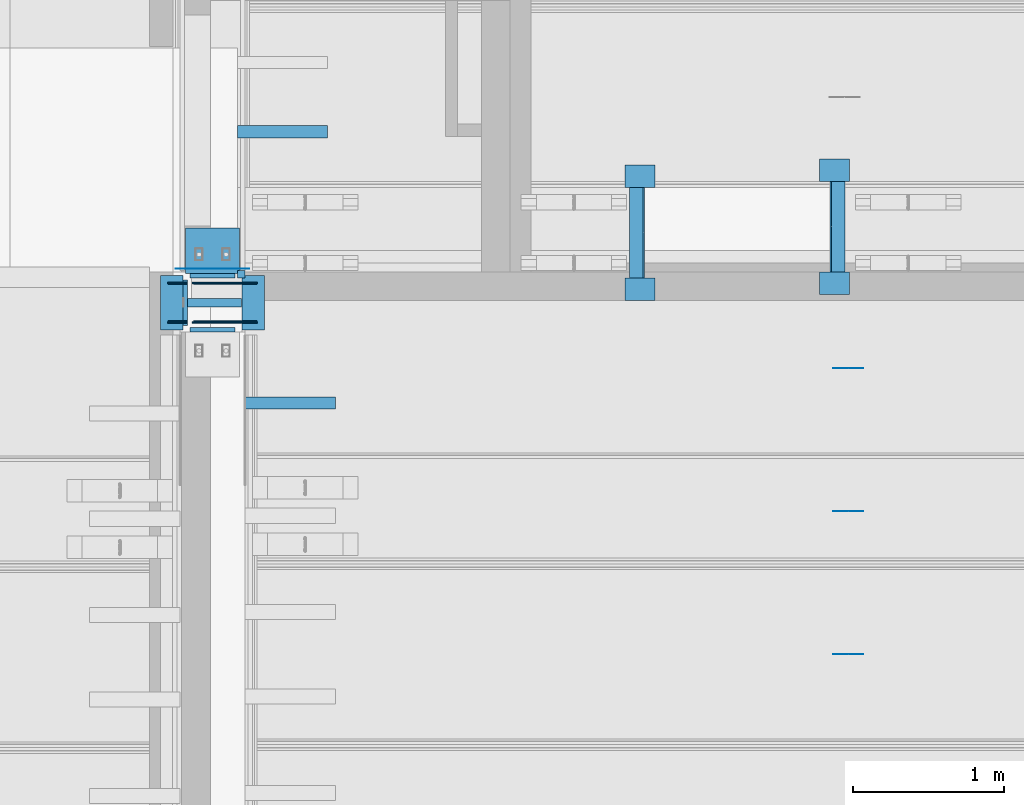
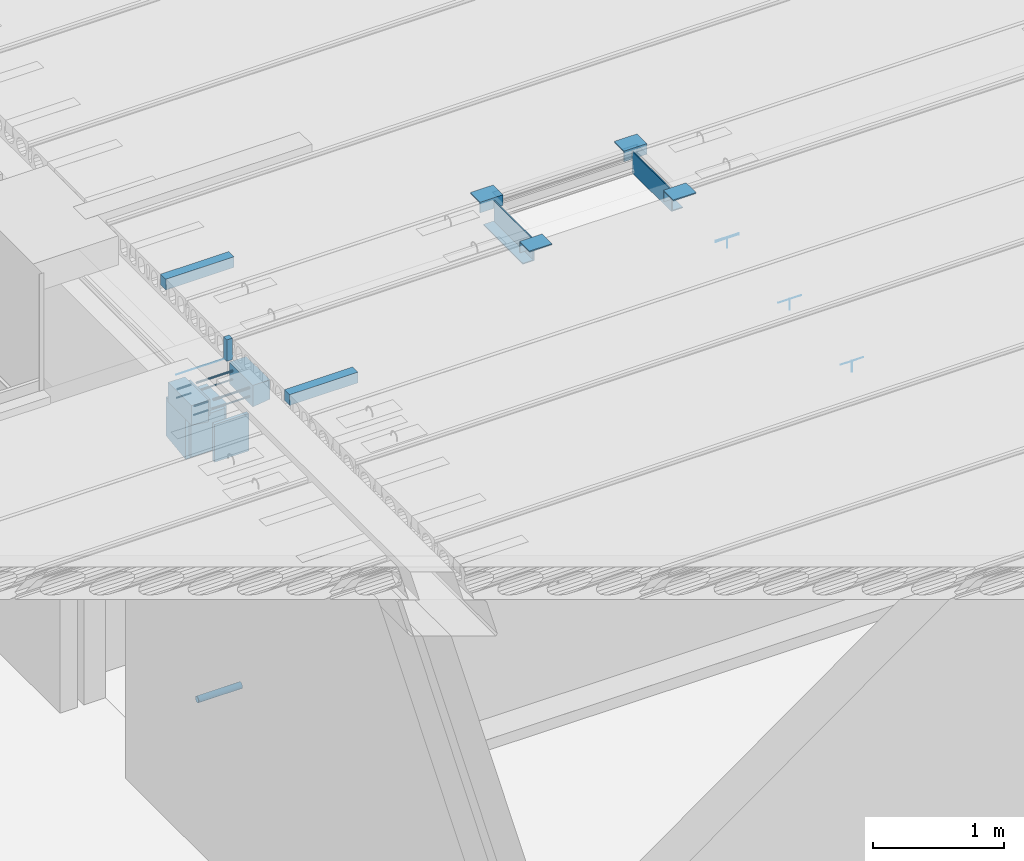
# One storey, part 17 of 230: 34 beams.
"""IFC4X3_ADD2 building model written with IfcOpenShell, lengths in millimetres."""

from ifc_helpers import new_model, entity, si_unit, direction, frame, frame_2d, origin_with_axes, place, context, subcontext, project, spatial, indexed_curve, rectangle, hollow_circle, l_section, outline, extrude, material, element, save


model = new_model("IFC4X3_ADD2")

# Units and contexts
model_context = context("Model", 3, precision=1e-05, world=origin_with_axes(), true_north=direction((0.0, 1.0)))
body_context = subcontext(model_context, "Body", "Model", "MODEL_VIEW")
ifc_project = project(units=[si_unit("LENGTHUNIT", "METRE", prefix="MILLI"), si_unit("AREAUNIT", "SQUARE_METRE"), si_unit("VOLUMEUNIT", "CUBIC_METRE"), si_unit("PLANEANGLEUNIT", "RADIAN"), si_unit("TIMEUNIT", "SECOND"), si_unit("MASSUNIT", "GRAM")], contexts=[model_context])

# Site, building, storey
site_placement = place(None, origin_with_axes())
site = spatial("IfcSite", under=ifc_project, at=site_placement, Name="Site", CompositionType="ELEMENT")
building_placement = place(site_placement, origin_with_axes())
building = spatial("IfcBuilding", under=site, at=building_placement, Name="IFC Building Story")
storey_placement = place(building_placement, origin_with_axes())
storey = spatial("IfcBuildingStorey", under=building, at=storey_placement, Name="ETAGE 00 (0)", Elevation=0.0)

# Beams
ifc_material_1 = material(Name="STEEL/Accessory_C60/75")
beam_1_placement = place(storey_placement, frame((40146.189, 540.0, 3390.0), z_axis=(-1.0, 0.0, 0.0), x_axis=(0.0, 0.0, 1.0)))
element("IfcBeam", 1, at=beam_1_placement, inside=storey, material=ifc_material_1, Name="BEK1", ObjectType="CORBEL400-300-360", context=body_context, shape_type="SweptSolid", body=[
    extrude(entity("IfcTrapeziumProfileDef", "AREA", None, entity("IfcAxis2Placement2D", entity("IfcCartesianPoint", [0.0, 5.95523630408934e-12]), entity("IfcDirection", [1.0, 0.0])), 400.0, 360.0, 300.0, 40.0), origin_with_axes(), (0.0, 0.0, 1.0), 360.0),
])
ifc_material_2 = material(Name="STEEL/Accessory_C50/60 64192")
for number, where, z_axis, x_axis, name in (
    (2, (40236.189, 15.0, 3875.0), (0.0, 1.0, 0.0), (0.0, 0.0, 1.0), "BEK1"),
    (3, (39696.189, 375.0, 3875.0), (0.0, -1.0, 0.0), (0.0, 0.0, 1.0), "BEK1"),
):
    element("IfcBeam", number, at=place(storey_placement, frame(where, z_axis=z_axis, x_axis=x_axis)), inside=storey, material=ifc_material_2, Name=name, ObjectType="CORBEL200-150-180", context=body_context, shape_type="SweptSolid", body=[
        extrude(entity("IfcTrapeziumProfileDef", "AREA", None, entity("IfcAxis2Placement2D", entity("IfcCartesianPoint", [0.0, 5.95523630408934e-12]), entity("IfcDirection", [1.0, 0.0])), 200.0, 180.0, 150.0, 19.9999999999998), origin_with_axes(), (0.0, 0.0, 1.0), 360.0),
    ])
ifc_material_3 = material(Name="STEEL/Accessory")
beam_2_placement = place(storey_placement, frame((42706.1896207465, 1034.999999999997, 4164.999999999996), z_axis=(1.0, 0.0, 0.0), x_axis=(0.0, 0.0, -1.0)))
element("IfcBeam", 4, at=beam_2_placement, inside=storey, material=ifc_material_3, Name="PS3", ObjectType="L150/100/10", context=body_context, shape_type="SweptSolid", body=[
    extrude(l_section(Depth=150.0, Width=100.0, Thickness=10.0, FilletRadius=0.0, EdgeRadius=0.0, LegSlope=0.0, at=frame_2d((0.0, 5.95523630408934e-12), x_axis=(1.0, 0.0))), origin_with_axes(), (0.0, 0.0, 1.0), 199.9999999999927),
])
beam_3_placement = place(storey_placement, frame((42906.1896207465, 285.0, 4164.999999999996), z_axis=(-1.0, 0.0, 0.0), x_axis=(0.0, 0.0, 1.0)))
element("IfcBeam", 5, at=beam_3_placement, inside=storey, material=ifc_material_3, Name="PS3", ObjectType="L150/100/10 2", context=body_context, shape_type="SweptSolid", body=[
    extrude(outline(indexed_curve([(-49.9999999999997, 64.99999999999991), (-50.0, 75.0), (50.0, 75.0), (50.0, -75.0), (40.0, -75.0), (40.0, 65.0), (-49.9999999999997, 64.99999999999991)])), origin_with_axes(), (0.0, 0.0, 1.0), 199.9999999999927),
])
beam_4_placement = place(storey_placement, frame((42786.18962074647, 360.0, 4090.0), z_axis=(0.0, 1.0, 0.0), x_axis=(-1.0, 0.0, 0.0)))
element("IfcBeam", 6, at=beam_4_placement, inside=storey, material=ifc_material_3, Name="PS3", ObjectType="L200/100/10", context=body_context, shape_type="SweptSolid", body=[
    extrude(l_section(Depth=200.0, Width=99.9999999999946, Thickness=10.0, FilletRadius=0.0, EdgeRadius=0.0, LegSlope=0.0, at=frame_2d((0.0, 5.95523630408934e-12), x_axis=(1.0, 0.0))), origin_with_axes(), (0.0, 0.0, 1.0), 599.999999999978),
])
beam_5_placement = place(storey_placement, frame((44196.1896207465, 324.9980000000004, 4164.999999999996), z_axis=(-1.0, 0.0, 0.0), x_axis=(0.0, 0.0, 1.0)))
element("IfcBeam", 7, at=beam_5_placement, inside=storey, material=ifc_material_3, Name="PS3", ObjectType="L150/100/10 2", context=body_context, shape_type="SweptSolid", body=[
    extrude(outline(indexed_curve([(-49.9999999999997, 64.99999999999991), (-50.0, 75.0), (50.0, 75.0), (50.0, -75.0), (40.0, -75.0), (40.0, 65.0), (-49.9999999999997, 64.99999999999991)])), origin_with_axes(), (0.0, 0.0, 1.0), 200.0),
])
beam_6_placement = place(storey_placement, frame((43996.1896207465, 1074.997999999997, 4164.999999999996), z_axis=(1.0, 0.0, 0.0), x_axis=(0.0, 0.0, -1.0)))
element("IfcBeam", 8, at=beam_6_placement, inside=storey, material=ifc_material_3, Name="PS3", ObjectType="L150/100/10", context=body_context, shape_type="SweptSolid", body=[
    extrude(l_section(Depth=150.0, Width=100.0, Thickness=10.0, FilletRadius=0.0, EdgeRadius=0.0, LegSlope=0.0, at=frame_2d((0.0, 5.95523630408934e-12), x_axis=(1.0, 0.0))), origin_with_axes(), (0.0, 0.0, 1.0), 200.0),
])
beam_7_placement = place(storey_placement, frame((44116.18962074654, 999.9980000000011, 4090.0), z_axis=(0.0, -1.0, 0.0), x_axis=(-1.0, 0.0, 0.0)))
element("IfcBeam", 9, at=beam_7_placement, inside=storey, material=ifc_material_3, Name="PS3", ObjectType="L200/100/10 2", context=body_context, shape_type="SweptSolid", body=[
    extrude(outline(indexed_curve([(-50.0000000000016, 90.0), (-50.0000000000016, 100.0), (50.0000000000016, 100.0), (50.0000000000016, -100.0), (39.9999999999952, -100.0), (40.0000000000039, 90.0), (-50.00000000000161, 90.0)])), origin_with_axes(), (0.0, 0.0, 1.0), 599.9999999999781),
])
ifc_material_4 = material(Name="STEEL/Accessory_invisible")
beam_8_placement = place(storey_placement, frame((40181.189, 385.000018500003, 4099.9999909), z_axis=(-1.0, 0.0, 0.0), x_axis=(0.0, 0.0, 1.0)))
element("IfcBeam", 10, at=beam_8_placement, inside=storey, material=ifc_material_4, Name="ES32", ObjectType="200*50", context=body_context, shape_type="SweptSolid", body=[
    extrude(rectangle(XDim=200.0, YDim=50.0, at=frame_2d((0.0, 5.95523630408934e-12), x_axis=(1.0, 0.0))), origin_with_axes(), (0.0, 0.0, 1.0), 50.0),
])
for number, where, z_axis, x_axis, name in (
    (11, (40731.189, 1330.0, 4150.0), (-1.0, 0.0, 0.0), (0.0, 0.0, 1.0), "ES7"),
    (12, (40781.189, -470.0, 4150.0), (-1.0, 0.0, 0.0), (0.0, 0.0, 1.0), "ES7"),
):
    element("IfcBeam", number, at=place(storey_placement, frame(where, z_axis=z_axis, x_axis=x_axis)), inside=storey, material=ifc_material_4, Name=name, ObjectType="100*80", context=body_context, shape_type="SweptSolid", body=[
        extrude(rectangle(XDim=100.0, YDim=80.0, at=frame_2d((0.0, 5.95523630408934e-12), x_axis=(1.0, 0.0))), origin_with_axes(), (0.0, 0.0, 1.0), 600.0),
    ])
ifc_material_5 = material(Name="STEEL/Accessory_invisible 261")
beam_9_placement = place(storey_placement, frame((44188.939, -240.0, 4049.9999909), z_axis=(-1.0, 0.0, 0.0), x_axis=(0.0, 0.0, -1.0)))
element("IfcBeam", 13, at=beam_9_placement, inside=storey, material=ifc_material_5, Name="ES6", ObjectType="1*1 2", context=body_context, shape_type="SweptSolid", body=[
    extrude(rectangle(XDim=100.0, YDim=0.9999999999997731, at=frame_2d((0.0, 5.95523630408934e-12), x_axis=(1.0, 0.0))), origin_with_axes(), (0.0, 0.0, 1.0), 1.0),
])
for number, where, z_axis, x_axis, name in (
    (14, (44288.439, -240.0, 4100.0), (-1.0, 0.0, 0.0), (0.0, 1.0, 0.0), "ES31"),
    (15, (44288.439, -240.0, 4090.0), (-1.0, 0.0, 0.0), (0.0, 1.0, 0.0), "ES31"),
):
    element("IfcBeam", number, at=place(storey_placement, frame(where, z_axis=z_axis, x_axis=x_axis)), inside=storey, material=ifc_material_5, Name=name, ObjectType="1*1 3", context=body_context, shape_type="SweptSolid", body=[
        extrude(rectangle(XDim=0.9999999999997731, YDim=0.9999999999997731, at=frame_2d((0.0, 5.95523630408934e-12), x_axis=(1.0, 0.0))), origin_with_axes(), (0.0, 0.0, 1.0), 200.0),
    ])
beam_10_placement = place(storey_placement, frame((44189.189, -2140.0, 4049.9999909), z_axis=(-1.0, 0.0, 0.0), x_axis=(0.0, 0.0, -1.0)))
element("IfcBeam", 16, at=beam_10_placement, inside=storey, material=ifc_material_5, Name="ES6", ObjectType="1*1 2", context=body_context, shape_type="SweptSolid", body=[
    extrude(rectangle(XDim=100.0, YDim=0.9999999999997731, at=frame_2d((0.0, 5.95523630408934e-12), x_axis=(1.0, 0.0))), origin_with_axes(), (0.0, 0.0, 1.0), 1.0),
])
beam_11_placement = place(storey_placement, frame((44288.689, -2140.0, 4100.0), z_axis=(-1.0, 0.0, 0.0), x_axis=(0.0, 1.0, 0.0)))
element("IfcBeam", 17, at=beam_11_placement, inside=storey, material=ifc_material_5, Name="ES31", ObjectType="1*1 3", context=body_context, shape_type="SweptSolid", body=[
    extrude(rectangle(XDim=0.9999999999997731, YDim=0.9999999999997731, at=frame_2d((0.0, 5.95523630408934e-12), x_axis=(1.0, 0.0))), origin_with_axes(), (0.0, 0.0, 1.0), 199.9999999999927),
])
beam_12_placement = place(storey_placement, frame((44189.189, -1189.99999075, 4049.9999909), z_axis=(-1.0, 0.0, 0.0), x_axis=(0.0, 0.0, -1.0)))
element("IfcBeam", 18, at=beam_12_placement, inside=storey, material=ifc_material_5, Name="ES6", ObjectType="1*1 2", context=body_context, shape_type="SweptSolid", body=[
    extrude(rectangle(XDim=100.0, YDim=0.9999999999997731, at=frame_2d((0.0, 5.95523630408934e-12), x_axis=(1.0, 0.0))), origin_with_axes(), (0.0, 0.0, 1.0), 1.0),
])
beam_13_placement = place(storey_placement, frame((44288.689, -1189.99999075, 4100.0), z_axis=(-1.0, 0.0, 0.0), x_axis=(0.0, 1.0, 0.0)))
element("IfcBeam", 19, at=beam_13_placement, inside=storey, material=ifc_material_5, Name="ES31", ObjectType="1*1 3", context=body_context, shape_type="SweptSolid", body=[
    extrude(rectangle(XDim=0.9999999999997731, YDim=0.9999999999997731, at=frame_2d((0.0, 5.95523630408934e-12), x_axis=(1.0, 0.0))), origin_with_axes(), (0.0, 0.0, 1.0), 199.9999999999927),
])
ifc_material_6 = material(Name="STEEL/Accessory_EPS")
for number, where, z_axis, x_axis, name in (
    (20, (40116.189, 15.0, 3565.0), (-1.0, 0.0, 0.0), (0.0, 0.0, -1.0), "POL4"),
    (21, (40116.189, 375.0, 3395.0), (-1.0, 0.0, 0.0), (0.0, 0.0, -1.0), "POL4"),
):
    element("IfcBeam", number, at=place(storey_placement, frame(where, z_axis=z_axis, x_axis=x_axis)), inside=storey, material=ifc_material_6, Name=name, ObjectType="30*300 2", context=body_context, shape_type="SweptSolid", body=[
        extrude(rectangle(XDim=350.0, YDim=29.9999999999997, at=frame_2d((0.0, 5.95523630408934e-12), x_axis=(1.0, 0.0))), origin_with_axes(), (0.0, 0.0, 1.0), 300.0),
    ])
beam_14_placement = place(storey_placement, frame((39771.189, 195.0, 3880.0), z_axis=(1.0, 0.0, 0.0), x_axis=(0.0, 0.0, -1.0)))
element("IfcBeam", 22, at=beam_14_placement, inside=storey, material=ifc_material_6, Name="POL4", ObjectType="30*300 3", context=body_context, shape_type="SweptSolid", body=[
    extrude(rectangle(XDim=150.0, YDim=300.000000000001, at=frame_2d((0.0, 5.95523630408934e-12), x_axis=(1.0, 0.0))), origin_with_axes(), (0.0, 0.0, 1.0), 29.99999999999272),
])
for number, where, z_axis, x_axis, name in (
    (23, (39796.18899999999, 66.0, 3924.0), (-1.0, 0.0, 0.0), (0.0, -0.3826834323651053, -0.9238795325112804), "SD12"),
    (24, (39796.18899999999, 324.0, 3924.0), (-1.0, 0.0, 0.0), (0.0, -0.3826834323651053, -0.9238795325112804), "SD12"),
):
    element("IfcBeam", number, at=place(storey_placement, frame(where, z_axis=z_axis, x_axis=x_axis)), inside=storey, material=ifc_material_3, Name=name, ObjectType="D19", context=body_context, shape_type="SweptSolid", body=[
        extrude(outline(indexed_curve([(-3.635492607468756, -8.776855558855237), (-8.776855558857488, -3.635492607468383), (-8.776855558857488, 3.635492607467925), (-3.635492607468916, 8.776855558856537), (3.635492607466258, 8.776855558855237), (8.776855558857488, 3.635492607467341), (8.77685555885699, -3.635492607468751), (3.635492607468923, -8.776855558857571), (-3.635492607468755, -8.776855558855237)])), origin_with_axes(), (0.0, 0.0, 1.0), 124.9999999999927),
    ])
beam_15_placement = place(storey_placement, frame((39796.18899999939, 63.99999999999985, 3843.999999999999), z_axis=(-1.0, 0.0, 0.0), x_axis=(0.0, 0.3826834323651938, 0.9238795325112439)))
element("IfcBeam", 25, at=beam_15_placement, inside=storey, material=ifc_material_3, Name="SD12", ObjectType="D15", context=body_context, shape_type="SweptSolid", body=[
    extrude(outline(indexed_curve([(2.87012574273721, 6.929096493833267), (6.929096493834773, 2.87012574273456), (6.929096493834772, -2.870125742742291), (2.870125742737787, -6.929096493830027), (-2.870125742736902, -6.929096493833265), (-6.92909649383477, -2.870125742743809), (-6.929096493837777, 2.870125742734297), (-2.870125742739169, 6.929096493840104), (2.870125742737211, 6.929096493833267)])), origin_with_axes(), (0.0, 0.0, 1.0), 129.9999999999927),
])
beam_16_placement = place(storey_placement, frame((39796.18900000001, 325.9999999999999, 3843.999999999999), z_axis=(-1.0, 0.0, 0.0), x_axis=(0.0, 0.3826834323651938, 0.9238795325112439)))
element("IfcBeam", 26, at=beam_16_placement, inside=storey, material=ifc_material_3, Name="SD12", ObjectType="D15", context=body_context, shape_type="SweptSolid", body=[
    extrude(outline(indexed_curve([(2.87012574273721, 6.929096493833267), (6.929096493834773, 2.87012574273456), (6.929096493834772, -2.870125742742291), (2.870125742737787, -6.929096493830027), (-2.870125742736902, -6.929096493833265), (-6.92909649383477, -2.870125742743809), (-6.929096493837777, 2.870125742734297), (-2.870125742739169, 6.929096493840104), (2.870125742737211, 6.929096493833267)])), origin_with_axes(), (0.0, 0.0, 1.0), 130.0000000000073),
])
for number, where, z_axis, x_axis, name in (
    (27, (40261.189, 66.0, 3924.0), (-1.0, 0.0, 0.0), (0.0, -0.3826834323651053, -0.9238795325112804), "SD12"),
    (28, (40261.189, 324.0, 3924.0), (-1.0, 0.0, 0.0), (0.0, -0.3826834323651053, -0.9238795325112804), "SD12"),
):
    element("IfcBeam", number, at=place(storey_placement, frame(where, z_axis=z_axis, x_axis=x_axis)), inside=storey, material=ifc_material_3, Name=name, ObjectType="D19", context=body_context, shape_type="SweptSolid", body=[
        extrude(outline(indexed_curve([(-3.635492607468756, -8.776855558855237), (-8.776855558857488, -3.635492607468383), (-8.776855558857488, 3.635492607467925), (-3.635492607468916, 8.776855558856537), (3.635492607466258, 8.776855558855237), (8.776855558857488, 3.635492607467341), (8.77685555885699, -3.635492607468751), (3.635492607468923, -8.776855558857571), (-3.635492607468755, -8.776855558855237)])), origin_with_axes(), (0.0, 0.0, 1.0), 420.0),
    ])
for number, where, z_axis, x_axis, name in (
    (29, (40266.18899999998, 325.9999999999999, 3843.999999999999), (-1.0, 0.0, 0.0), (0.0, 0.3826834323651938, 0.9238795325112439), "SD12"),
    (30, (40266.18899999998, 63.99999999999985, 3843.999999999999), (-1.0, 0.0, 0.0), (0.0, 0.3826834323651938, 0.9238795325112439), "SD12"),
):
    element("IfcBeam", number, at=place(storey_placement, frame(where, z_axis=z_axis, x_axis=x_axis)), inside=storey, material=ifc_material_3, Name=name, ObjectType="D15", context=body_context, shape_type="SweptSolid", body=[
        extrude(outline(indexed_curve([(2.87012574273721, 6.929096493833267), (6.929096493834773, 2.87012574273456), (6.929096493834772, -2.870125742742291), (2.870125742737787, -6.929096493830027), (-2.870125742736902, -6.929096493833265), (-6.92909649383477, -2.870125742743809), (-6.929096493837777, 2.870125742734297), (-2.870125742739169, 6.929096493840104), (2.870125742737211, 6.929096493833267)])), origin_with_axes(), (0.0, 0.0, 1.0), 434.9999999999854),
    ])
ifc_material_7 = material(Name="STEEL/Accessory_PVC")
beam_17_placement = place(storey_placement, frame((39774.1890000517, 195.0, 1080.0), z_axis=(1.0, 0.0, 0.0), x_axis=(0.0, 0.0, -1.0)))
element("IfcBeam", 31, at=beam_17_placement, inside=storey, material=ifc_material_7, Name="PS13", ObjectType="O56*3", context=body_context, shape_type="SweptSolid", body=[
    extrude(hollow_circle(Radius=28.0, WallThickness=3.0, at=frame_2d((0.0, 5.95523630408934e-12), x_axis=(1.0, 0.0))), origin_with_axes(), (0.0, 0.0, 1.0), 384.0),
])
for number, where, z_axis, x_axis, name in (
    (32, (39861.089, 420.0, 3984.49999999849), (-1.0, 0.0, 0.0), (0.0, 1.0, 0.0), "ZW3"),
    (33, (40211.18900000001, 420.0, 3984.49999999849), (-1.0, 0.0, 0.0), (0.0, 1.0, 0.0), "ZW3"),
):
    element("IfcBeam", number, at=place(storey_placement, frame(where, z_axis=z_axis, x_axis=x_axis)), inside=storey, material=ifc_material_4, Name=name, ObjectType="1*1 3", context=body_context, shape_type="SweptSolid", body=[
        extrude(rectangle(XDim=0.9999999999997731, YDim=0.9999999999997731, at=frame_2d((0.0, 5.95523630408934e-12), x_axis=(1.0, 0.0))), origin_with_axes(), (0.0, 0.0, 1.0), 139.9000000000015),
    ])
beam_18_placement = place(storey_placement, frame((40071.18900000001, 420.0, 3984.5), z_axis=(-1.0, 0.0, 0.0), x_axis=(0.0, 1.0, 0.0)))
element("IfcBeam", 34, at=beam_18_placement, inside=storey, material=ifc_material_4, Name="ZW3", ObjectType="1*1 3", context=body_context, shape_type="SweptSolid", body=[
    extrude(rectangle(XDim=0.9999999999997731, YDim=0.9999999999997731, at=frame_2d((0.0, 5.95523630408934e-12), x_axis=(1.0, 0.0))), origin_with_axes(), (0.0, 0.0, 1.0), 210.0000000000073),
])

save(model, "model.ifc")
